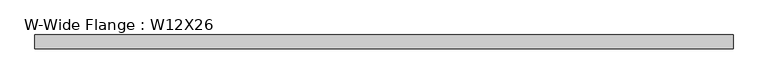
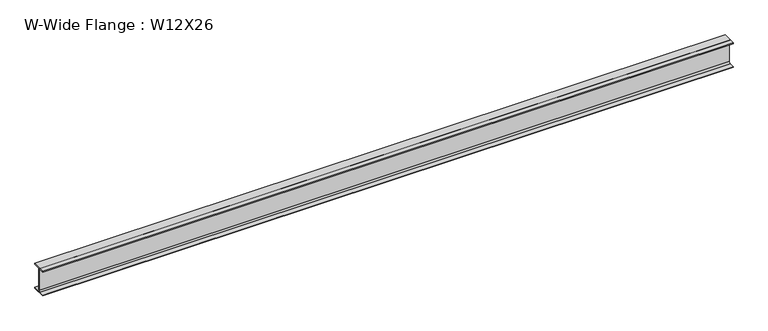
"""IFC4 building model written with IfcOpenShell, lengths in millimetres: beam geometry, W-Wide Flange : W12X26."""

from ifc_helpers import new_model, si_unit, point, frame, frame_2d, origin, place, context, project, spatial, polyline, circle_curve, trimmed, segment, composite_curve, outline, extrude, source, transform, mapped, element, save


def w_wide_flange_w12x26_5f518428(model_context):
    return source(origin(), model_context, "Body", "SweptSolid", [
        extrude(outline(composite_curve([segment(polyline([(82.423, -145.288), (82.423, -154.94), (-82.423, -154.94), (-82.423, -145.288), (-20.2565, -145.288)]), True, "CONTINUOUS"), segment(trimmed(circle_curve(frame_2d((-20.2565, -127.9525)), 17.3355), [point((-20.2565, -145.288))], [point((-2.921, -127.9525))], True, "CARTESIAN"), True, "CONTINUOUS"), segment(polyline([(-2.921, -127.9525), (-2.921, 127.9525)]), True, "CONTINUOUS"), segment(trimmed(circle_curve(frame_2d((-20.2565, 127.9525)), 17.3355), [point((-2.921, 127.9525))], [point((-20.2565, 145.288))], True, "CARTESIAN"), True, "CONTINUOUS"), segment(polyline([(-20.2565, 145.288), (-82.423, 145.288), (-82.423, 154.94), (82.423, 154.94), (82.423, 145.288), (20.2565, 145.288)]), True, "CONTINUOUS"), segment(trimmed(circle_curve(frame_2d((20.2565, 127.9525)), 17.3355), [point((20.2565, 145.288))], [point((2.921, 127.9525))], True, "CARTESIAN"), True, "CONTINUOUS"), segment(polyline([(2.921, 127.9525), (2.921, -127.9525)]), True, "CONTINUOUS"), segment(trimmed(circle_curve(frame_2d((20.2565, -127.9525)), 17.3355), [point((2.921, -127.9525))], [point((20.2565, -145.288))], True, "CARTESIAN"), True, "CONTINUOUS"), segment(polyline([(20.2565, -145.288), (82.423, -145.288)]), True, "CONTINUOUS")], self_intersect=False)), frame((-4343.4, 0.0, 0.0), z_axis=(1.0, 0.0, 0.0), x_axis=(0.0, 1.0, 0.0)), (0.0, 0.0, 1.0), 8229.6),
    ])


if __name__ == "__main__":
    model = new_model("IFC4")
    model_context = context("Model", 3, world=origin())
    ifc_project = project(units=[si_unit("LENGTHUNIT", "METRE", prefix="MILLI")], contexts=[model_context])
    site = spatial("IfcSite", under=ifc_project)
    building = spatial("IfcBuilding", under=site)
    placement = place(None, origin())
    w_wide_flange_w12x26_shape = w_wide_flange_w12x26_5f518428(model_context)
    element("IfcBeam", 1, ObjectType="W-Wide Flange : W12X26", at=placement, inside=building, context=model_context, shape_type="MappedRepresentation", body=[
        mapped(w_wide_flange_w12x26_shape, transform((0.0, 0.0, 0.0), x_axis=(1.0, 0.0, 0.0), y_axis=(0.0, 1.0, 0.0), z_axis=(0.0, 0.0, 1.0))),
    ])
    save(model, "model.ifc")
